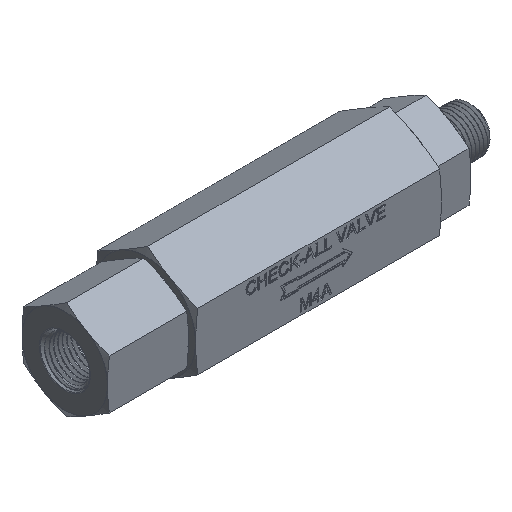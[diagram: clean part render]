
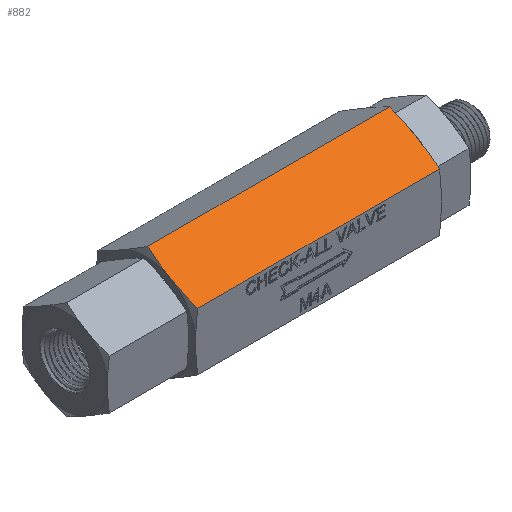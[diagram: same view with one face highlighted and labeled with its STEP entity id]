
A CAD part, isometric view. The second image highlights one B-rep face of the part: STEP entity #882.
In plain terms, the highlighted planar face has unit normal (0, -0.5, 0.866).
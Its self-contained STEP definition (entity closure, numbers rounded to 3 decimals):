
#882 = ADVANCED_FACE( '', ( #1968 ), #1969, .T. );
#1968 = FACE_OUTER_BOUND( '', #15235, .T. );
#1969 = PLANE( '', #15236 );
#15235 = EDGE_LOOP( '', ( #29143, #29144, #29145, #29146, #29147, #29148, #29149, #29150, #29151 ) );
#15236 = AXIS2_PLACEMENT_3D( '', #29152, #29153, #29154 );
#29143 = ORIENTED_EDGE( '', *, *, #31093, .F. );
#29144 = ORIENTED_EDGE( '', *, *, #30720, .T. );
#29145 = ORIENTED_EDGE( '', *, *, #31774, .F. );
#29146 = ORIENTED_EDGE( '', *, *, #31607, .T. );
#29147 = ORIENTED_EDGE( '', *, *, #31775, .T. );
#29148 = ORIENTED_EDGE( '', *, *, #31035, .T. );
#29149 = ORIENTED_EDGE( '', *, *, #30919, .T. );
#29150 = ORIENTED_EDGE( '', *, *, #31776, .T. );
#29151 = ORIENTED_EDGE( '', *, *, #31670, .F. );
#29152 = CARTESIAN_POINT( '', ( 72.796, -11.113, 6.416 ) );
#29153 = DIRECTION( '', ( 0., -0.5, 0.866 ) );
#29154 = DIRECTION( '', ( -1., 0., 0. ) );
#30720 = EDGE_CURVE( '', #32177, #32175, #32178, .T. );
#30919 = EDGE_CURVE( '', #32534, #32535, #32536, .T. );
#31035 = EDGE_CURVE( '', #32727, #32534, #32728, .T. );
#31093 = EDGE_CURVE( '', #32177, #32823, #32825, .T. );
#31607 = EDGE_CURVE( '', #33582, #33585, #33587, .T. );
#31670 = EDGE_CURVE( '', #32823, #33686, #33687, .T. );
#31774 = EDGE_CURVE( '', #33582, #32175, #33816, .T. );
#31775 = EDGE_CURVE( '', #33585, #32727, #33817, .T. );
#31776 = EDGE_CURVE( '', #32535, #33686, #33818, .T. );
#32175 = VERTEX_POINT( '', #34315 );
#32177 = VERTEX_POINT( '', #34317 );
#32178 = B_SPLINE_CURVE_WITH_KNOTS( '', 3, ( #34318, #34319, #34320, #34321, #34322, #34323 ), .UNSPECIFIED., .F., .F., ( 4, 2, 4 ), ( 0., 0.001, 0.002 ), .UNSPECIFIED. );
#32534 = VERTEX_POINT( '', #35542 );
#32535 = VERTEX_POINT( '', #35543 );
#32536 = ELLIPSE( '', #35544, 3.248, 0.252 );
#32727 = VERTEX_POINT( '', #37274 );
#32728 = ELLIPSE( '', #37275, 3.18, 0.245 );
#32823 = VERTEX_POINT( '', #37571 );
#32825 = B_SPLINE_CURVE_WITH_KNOTS( '', 3, ( #37582, #37583, #37584, #37585 ), .UNSPECIFIED., .F., .F., ( 4, 4 ), ( 0., 0.006 ), .UNSPECIFIED. );
#33582 = VERTEX_POINT( '', #42076 );
#33585 = VERTEX_POINT( '', #42082 );
#33587 = LINE( '', #42093, #42094 );
#33686 = VERTEX_POINT( '', #42317 );
#33687 = LINE( '', #42318, #42319 );
#33816 = B_SPLINE_CURVE_WITH_KNOTS( '', 3, ( #42882, #42883, #42884, #42885 ), .UNSPECIFIED., .F., .F., ( 4, 4 ), ( 0., 0.006 ), .UNSPECIFIED. );
#33817 = B_SPLINE_CURVE_WITH_KNOTS( '', 3, ( #42886, #42887, #42888, #42889, #42890, #42891, #42892, #42893, #42894, #42895 ), .UNSPECIFIED., .F., .F., ( 4, 2, 2, 2, 4 ), ( 0., 0.001, 0.003, 0.004, 0.006 ), .UNSPECIFIED. );
#33818 = B_SPLINE_CURVE_WITH_KNOTS( '', 3, ( #42896, #42897, #42898, #42899, #42900, #42901, #42902, #42903, #42904, #42905 ), .UNSPECIFIED., .F., .F., ( 4, 2, 2, 2, 4 ), ( 0.007, 0.009, 0.01, 0.011, 0.013 ), .UNSPECIFIED. );
#34315 = CARTESIAN_POINT( '', ( 72.788, -4.822, 10.048 ) );
#34317 = CARTESIAN_POINT( '', ( 72.788, -6.291, 9.2 ) );
#34318 = CARTESIAN_POINT( '', ( 72.788, -6.291, 9.2 ) );
#34319 = CARTESIAN_POINT( '', ( 72.794, -6.046, 9.341 ) );
#34320 = CARTESIAN_POINT( '', ( 72.794, -5.801, 9.482 ) );
#34321 = CARTESIAN_POINT( '', ( 72.794, -5.311, 9.765 ) );
#34322 = CARTESIAN_POINT( '', ( 72.794, -5.067, 9.906 ) );
#34323 = CARTESIAN_POINT( '', ( 72.788, -4.822, 10.048 ) );
#35542 = CARTESIAN_POINT( '', ( 18.034, -5.556, 9.624 ) );
#35543 = CARTESIAN_POINT( '', ( 18.043, -6.291, 9.2 ) );
#35544 = AXIS2_PLACEMENT_3D( '', #45274, #45275, #45276 );
#37274 = CARTESIAN_POINT( '', ( 18.043, -4.822, 10.048 ) );
#37275 = AXIS2_PLACEMENT_3D( '', #45361, #45362, #45363 );
#37571 = CARTESIAN_POINT( '', ( 72.336, -11.113, 6.416 ) );
#37582 = CARTESIAN_POINT( '', ( 72.788, -6.291, 9.2 ) );
#37583 = CARTESIAN_POINT( '', ( 72.75, -7.906, 8.267 ) );
#37584 = CARTESIAN_POINT( '', ( 72.583, -9.512, 7.34 ) );
#37585 = CARTESIAN_POINT( '', ( 72.336, -11.113, 6.416 ) );
#42076 = CARTESIAN_POINT( '', ( 72.336, 0., 12.832 ) );
#42082 = CARTESIAN_POINT( '', ( 18.495, 0., 12.832 ) );
#42093 = CARTESIAN_POINT( '', ( 72.796, 0., 12.832 ) );
#42094 = VECTOR( '', #45803, 1000. );
#42317 = CARTESIAN_POINT( '', ( 18.495, -11.113, 6.416 ) );
#42318 = CARTESIAN_POINT( '', ( 72.796, -11.113, 6.416 ) );
#42319 = VECTOR( '', #45828, 1000. );
#42882 = CARTESIAN_POINT( '', ( 72.336, 0., 12.832 ) );
#42883 = CARTESIAN_POINT( '', ( 72.583, -1.601, 11.908 ) );
#42884 = CARTESIAN_POINT( '', ( 72.75, -3.207, 10.98 ) );
#42885 = CARTESIAN_POINT( '', ( 72.788, -4.822, 10.048 ) );
#42886 = CARTESIAN_POINT( '', ( 18.495, 0., 12.832 ) );
#42887 = CARTESIAN_POINT( '', ( 18.432, -0.402, 12.6 ) );
#42888 = CARTESIAN_POINT( '', ( 18.375, -0.804, 12.368 ) );
#42889 = CARTESIAN_POINT( '', ( 18.273, -1.607, 11.904 ) );
#42890 = CARTESIAN_POINT( '', ( 18.228, -2.009, 11.672 ) );
#42891 = CARTESIAN_POINT( '', ( 18.15, -2.813, 11.208 ) );
#42892 = CARTESIAN_POINT( '', ( 18.118, -3.215, 10.976 ) );
#42893 = CARTESIAN_POINT( '', ( 18.069, -4.018, 10.512 ) );
#42894 = CARTESIAN_POINT( '', ( 18.052, -4.42, 10.28 ) );
#42895 = CARTESIAN_POINT( '', ( 18.043, -4.822, 10.048 ) );
#42896 = CARTESIAN_POINT( '', ( 18.043, -6.291, 9.2 ) );
#42897 = CARTESIAN_POINT( '', ( 18.052, -6.692, 8.968 ) );
#42898 = CARTESIAN_POINT( '', ( 18.069, -7.094, 8.736 ) );
#42899 = CARTESIAN_POINT( '', ( 18.118, -7.898, 8.272 ) );
#42900 = CARTESIAN_POINT( '', ( 18.15, -8.3, 8.04 ) );
#42901 = CARTESIAN_POINT( '', ( 18.228, -9.103, 7.576 ) );
#42902 = CARTESIAN_POINT( '', ( 18.273, -9.505, 7.344 ) );
#42903 = CARTESIAN_POINT( '', ( 18.375, -10.309, 6.88 ) );
#42904 = CARTESIAN_POINT( '', ( 18.432, -10.711, 6.648 ) );
#42905 = CARTESIAN_POINT( '', ( 18.495, -11.113, 6.416 ) );
#45274 = CARTESIAN_POINT( '', ( 18.286, -5.555, 9.624 ) );
#45275 = DIRECTION( '', ( 0., -0.5, 0.866 ) );
#45276 = DIRECTION( '', ( 0., 0.866, 0.5 ) );
#45361 = CARTESIAN_POINT( '', ( 18.279, -5.554, 9.625 ) );
#45362 = DIRECTION( '', ( 0., -0.5, 0.866 ) );
#45363 = DIRECTION( '', ( 0., 0.866, 0.5 ) );
#45803 = DIRECTION( '', ( -1., 0., 0. ) );
#45828 = DIRECTION( '', ( -1., 0., 0. ) );
